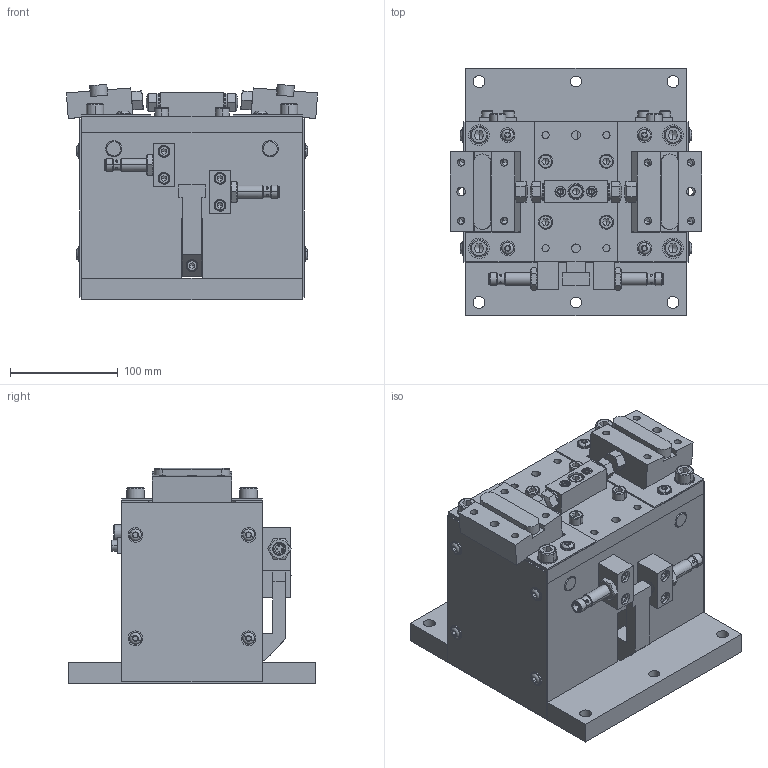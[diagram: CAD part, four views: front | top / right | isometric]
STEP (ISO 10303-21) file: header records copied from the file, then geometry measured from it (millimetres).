
FILE_DESCRIPTION(('CATIA V5 STEP Exchange'),'2;1');
FILE_NAME('C:\Users\Hynek\Hynek Kukrál\Týmový web - Projekty\ZAKAZKY\Interni konstrukce\IK009 pneumaticky sverak\Mechanus--pneumaticky sverak--IK009-1 (otevreno).stp','2024-03-06T22:11:41+00:00',('none'),('none'),'CATIA Version 5 Release 19 SP 9 (IN-10)','CATIA V5 STEP AP214','none');
FILE_SCHEMA(('AUTOMOTIVE_DESIGN { 1 0 10303 214 1 1 1 1 }'));
Products named in the file (1): Mechanus--pneumaticky sverak--IK009-1 (otevreno)
Bounding box: 233.21 x 230 x 199.67 mm (x, y, z)
Volume: 2994911.3 mm3; surface area: 634133.6 mm2
Topology: 90 solids, 90 shells, 1975 faces, 4597 edges, 2866 vertices
Faces by surface type: plane 706, cylinder 697, cone 424, bspline 88, torus 40, sphere 20
Entity records: 64563 total; most frequent: CARTESIAN_POINT 15705, ORIENTED_EDGE 8946, DIRECTION 6824, EDGE_CURVE 4473, AXIS2_PLACEMENT_3D 3190, VERTEX_POINT 2864, EDGE_LOOP 2395, VECTOR 2053
